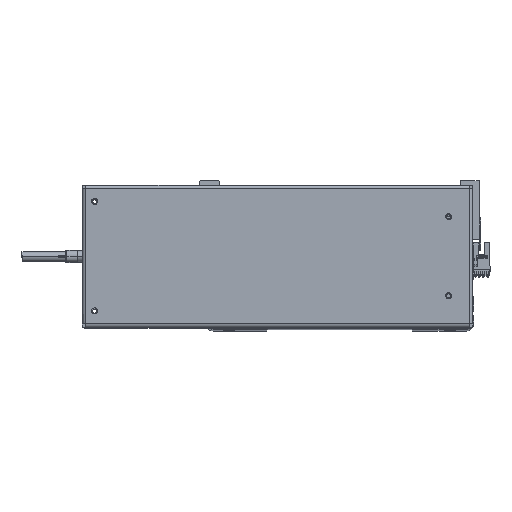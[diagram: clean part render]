
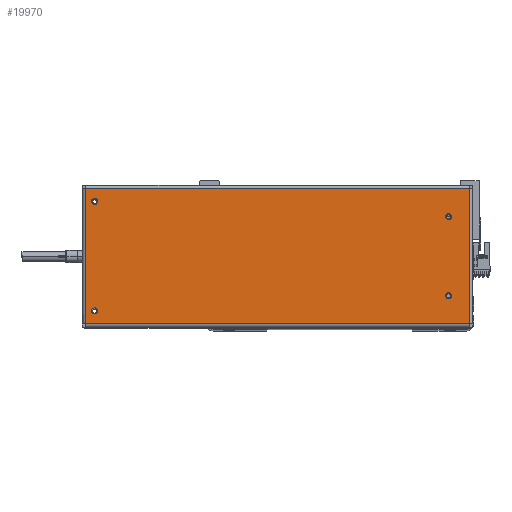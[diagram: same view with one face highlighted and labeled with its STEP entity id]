
A CAD part, top view. The second image highlights one B-rep face of the part: STEP entity #19970.
In plain terms, the highlighted planar face has unit normal (0, 0, 1).
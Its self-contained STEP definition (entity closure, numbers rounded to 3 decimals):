
#99 = DIRECTION ( 'NONE',  ( 0., 0., 1. ) ) ;
#153 = CIRCLE ( 'NONE', #3581, 2.5 ) ;
#327 = CARTESIAN_POINT ( 'NONE',  ( 157.6, -55.6, 0. ) ) ;
#471 = EDGE_CURVE ( 'NONE', #10305, #3936, #153, .T. ) ;
#484 = DIRECTION ( 'NONE',  ( 0., 0., 1. ) ) ;
#525 = VECTOR ( 'NONE', #19211, 1000. ) ;
#646 = DIRECTION ( 'NONE',  ( 0., 0., 1. ) ) ;
#729 = CARTESIAN_POINT ( 'NONE',  ( -138., 32.5, 0. ) ) ;
#1621 = LINE ( 'NONE', #17486, #25222 ) ;
#2576 = EDGE_CURVE ( 'NONE', #24469, #24054, #1621, .T. ) ;
#2852 = ORIENTED_EDGE ( 'NONE', *, *, #5889, .F. ) ;
#2858 = EDGE_LOOP ( 'NONE', ( #2852, #3313 ) ) ;
#3241 = VERTEX_POINT ( 'NONE', #17957 ) ;
#3313 = ORIENTED_EDGE ( 'NONE', *, *, #7775, .F. ) ;
#3383 = EDGE_CURVE ( 'NONE', #3936, #10305, #34628, .T. ) ;
#3581 = AXIS2_PLACEMENT_3D ( 'NONE', #9696, #484, #33528 ) ;
#3936 = VERTEX_POINT ( 'NONE', #8455 ) ;
#4808 = CIRCLE ( 'NONE', #27133, 2.5 ) ;
#5758 = CARTESIAN_POINT ( 'NONE',  ( 157.6, -55.6, 0. ) ) ;
#5889 = EDGE_CURVE ( 'NONE', #3241, #35823, #29908, .T. ) ;
#6032 = DIRECTION ( 'NONE',  ( 0., 1., 0. ) ) ;
#6505 = EDGE_CURVE ( 'NONE', #36526, #20437, #31684, .T. ) ;
#7184 = DIRECTION ( 'NONE',  ( 1., 0., 0. ) ) ;
#7261 = CARTESIAN_POINT ( 'NONE',  ( 148., -45., 0. ) ) ;
#7428 = DIRECTION ( 'NONE',  ( -1., 0., 0. ) ) ;
#7775 = EDGE_CURVE ( 'NONE', #35823, #3241, #31613, .T. ) ;
#7788 = EDGE_CURVE ( 'NONE', #24054, #28157, #36808, .T. ) ;
#8062 = ORIENTED_EDGE ( 'NONE', *, *, #9563, .F. ) ;
#8334 = DIRECTION ( 'NONE',  ( 0., -1., 0. ) ) ;
#8455 = CARTESIAN_POINT ( 'NONE',  ( 153., -45., 0. ) ) ;
#8712 = DIRECTION ( 'NONE',  ( 0., 0., 1. ) ) ;
#8817 = FACE_BOUND ( 'NONE', #28332, .T. ) ;
#9555 = EDGE_LOOP ( 'NONE', ( #38337, #14254 ) ) ;
#9563 = EDGE_CURVE ( 'NONE', #20437, #36526, #34960, .T. ) ;
#9621 = AXIS2_PLACEMENT_3D ( 'NONE', #28866, #31928, #7428 ) ;
#9696 = CARTESIAN_POINT ( 'NONE',  ( 150.5, -45., 0. ) ) ;
#9729 = CARTESIAN_POINT ( 'NONE',  ( -143., -32.5, 0. ) ) ;
#10112 = DIRECTION ( 'NONE',  ( 0., 0., 1. ) ) ;
#10305 = VERTEX_POINT ( 'NONE', #7261 ) ;
#10382 = DIRECTION ( 'NONE',  ( 0., 0., 1. ) ) ;
#11662 = LINE ( 'NONE', #5758, #19648 ) ;
#11755 = CARTESIAN_POINT ( 'NONE',  ( 157.7, 55.6, 0. ) ) ;
#11770 = DIRECTION ( 'NONE',  ( 1., 0., 0. ) ) ;
#12420 = AXIS2_PLACEMENT_3D ( 'NONE', #29880, #99, #38988 ) ;
#12617 = CARTESIAN_POINT ( 'NONE',  ( -157.6, -55.6, 0. ) ) ;
#13213 = CARTESIAN_POINT ( 'NONE',  ( -157.6, 55.6, 0. ) ) ;
#13913 = PLANE ( 'NONE',  #9621 ) ;
#14130 = CARTESIAN_POINT ( 'NONE',  ( 148., 45., 0. ) ) ;
#14254 = ORIENTED_EDGE ( 'NONE', *, *, #471, .F. ) ;
#15004 = FACE_BOUND ( 'NONE', #27178, .T. ) ;
#15748 = VERTEX_POINT ( 'NONE', #33205 ) ;
#16416 = ORIENTED_EDGE ( 'NONE', *, *, #19633, .F. ) ;
#16819 = ORIENTED_EDGE ( 'NONE', *, *, #6505, .F. ) ;
#17456 = ORIENTED_EDGE ( 'NONE', *, *, #25434, .T. ) ;
#17486 = CARTESIAN_POINT ( 'NONE',  ( -157.6, 55.6, 0. ) ) ;
#17957 = CARTESIAN_POINT ( 'NONE',  ( 153., 45., 0. ) ) ;
#19084 = VERTEX_POINT ( 'NONE', #729 ) ;
#19211 = DIRECTION ( 'NONE',  ( 1., 0., 0. ) ) ;
#19522 = CARTESIAN_POINT ( 'NONE',  ( -140.5, 32.5, 0. ) ) ;
#19633 = EDGE_CURVE ( 'NONE', #19084, #38851, #30718, .T. ) ;
#19648 = VECTOR ( 'NONE', #6032, 1000. ) ;
#19720 = DIRECTION ( 'NONE',  ( 0., 0., 1. ) ) ;
#19742 = CARTESIAN_POINT ( 'NONE',  ( -143., 32.5, 0. ) ) ;
#19970 = ADVANCED_FACE ( 'NONE', ( #8817, #15004, #22032, #39009, #21590 ), #13913, .F. ) ;
#20437 = VERTEX_POINT ( 'NONE', #9729 ) ;
#20699 = AXIS2_PLACEMENT_3D ( 'NONE', #37517, #10112, #7184 ) ;
#21590 = FACE_OUTER_BOUND ( 'NONE', #29177, .T. ) ;
#22032 = FACE_BOUND ( 'NONE', #9555, .T. ) ;
#22178 = EDGE_CURVE ( 'NONE', #38851, #19084, #4808, .T. ) ;
#22183 = DIRECTION ( 'NONE',  ( 1., 0., 0. ) ) ;
#22438 = DIRECTION ( 'NONE',  ( 0., 0., 1. ) ) ;
#23939 = ORIENTED_EDGE ( 'NONE', *, *, #22178, .F. ) ;
#24054 = VERTEX_POINT ( 'NONE', #12617 ) ;
#24469 = VERTEX_POINT ( 'NONE', #13213 ) ;
#24756 = DIRECTION ( 'NONE',  ( 1., 0., 0. ) ) ;
#25146 = AXIS2_PLACEMENT_3D ( 'NONE', #28403, #10382, #31459 ) ;
#25222 = VECTOR ( 'NONE', #8334, 1000. ) ;
#25259 = DIRECTION ( 'NONE',  ( 1., 0., 0. ) ) ;
#25434 = EDGE_CURVE ( 'NONE', #28157, #15748, #11662, .T. ) ;
#27133 = AXIS2_PLACEMENT_3D ( 'NONE', #19522, #22438, #22183 ) ;
#27178 = EDGE_LOOP ( 'NONE', ( #16416, #23939 ) ) ;
#28157 = VERTEX_POINT ( 'NONE', #327 ) ;
#28163 = CARTESIAN_POINT ( 'NONE',  ( -157.7, -55.6, 0. ) ) ;
#28332 = EDGE_LOOP ( 'NONE', ( #16819, #8062 ) ) ;
#28403 = CARTESIAN_POINT ( 'NONE',  ( 150.5, 45., 0. ) ) ;
#28701 = EDGE_CURVE ( 'NONE', #15748, #24469, #32226, .T. ) ;
#28866 = CARTESIAN_POINT ( 'NONE',  ( 157.7, 58.5, 0. ) ) ;
#29177 = EDGE_LOOP ( 'NONE', ( #30106, #30067, #17456, #30531 ) ) ;
#29880 = CARTESIAN_POINT ( 'NONE',  ( -140.5, -32.5, 0. ) ) ;
#29904 = VECTOR ( 'NONE', #32666, 1000. ) ;
#29908 = CIRCLE ( 'NONE', #25146, 2.5 ) ;
#30067 = ORIENTED_EDGE ( 'NONE', *, *, #7788, .T. ) ;
#30106 = ORIENTED_EDGE ( 'NONE', *, *, #2576, .T. ) ;
#30531 = ORIENTED_EDGE ( 'NONE', *, *, #28701, .T. ) ;
#30718 = CIRCLE ( 'NONE', #31321, 2.5 ) ;
#31321 = AXIS2_PLACEMENT_3D ( 'NONE', #38763, #8712, #11770 ) ;
#31459 = DIRECTION ( 'NONE',  ( 1., 0., 0. ) ) ;
#31613 = CIRCLE ( 'NONE', #20699, 2.5 ) ;
#31684 = CIRCLE ( 'NONE', #33517, 2.5 ) ;
#31928 = DIRECTION ( 'NONE',  ( 0., 0., -1. ) ) ;
#32226 = LINE ( 'NONE', #11755, #29904 ) ;
#32666 = DIRECTION ( 'NONE',  ( -1., 0., 0. ) ) ;
#33205 = CARTESIAN_POINT ( 'NONE',  ( 157.6, 55.6, 0. ) ) ;
#33517 = AXIS2_PLACEMENT_3D ( 'NONE', #33717, #646, #24756 ) ;
#33528 = DIRECTION ( 'NONE',  ( 1., 0., 0. ) ) ;
#33717 = CARTESIAN_POINT ( 'NONE',  ( -140.5, -32.5, 0. ) ) ;
#34628 = CIRCLE ( 'NONE', #38727, 2.5 ) ;
#34960 = CIRCLE ( 'NONE', #12420, 2.5 ) ;
#35823 = VERTEX_POINT ( 'NONE', #14130 ) ;
#36526 = VERTEX_POINT ( 'NONE', #37954 ) ;
#36808 = LINE ( 'NONE', #28163, #525 ) ;
#37517 = CARTESIAN_POINT ( 'NONE',  ( 150.5, 45., 0. ) ) ;
#37774 = CARTESIAN_POINT ( 'NONE',  ( 150.5, -45., 0. ) ) ;
#37954 = CARTESIAN_POINT ( 'NONE',  ( -138., -32.5, 0. ) ) ;
#38337 = ORIENTED_EDGE ( 'NONE', *, *, #3383, .F. ) ;
#38727 = AXIS2_PLACEMENT_3D ( 'NONE', #37774, #19720, #25259 ) ;
#38763 = CARTESIAN_POINT ( 'NONE',  ( -140.5, 32.5, 0. ) ) ;
#38851 = VERTEX_POINT ( 'NONE', #19742 ) ;
#38988 = DIRECTION ( 'NONE',  ( 1., 0., 0. ) ) ;
#39009 = FACE_BOUND ( 'NONE', #2858, .T. ) ;
